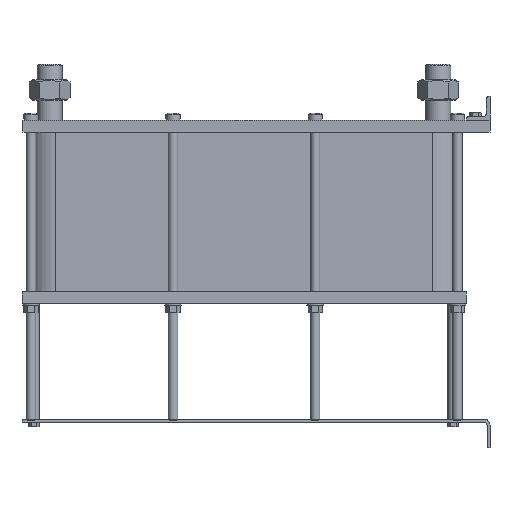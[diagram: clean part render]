
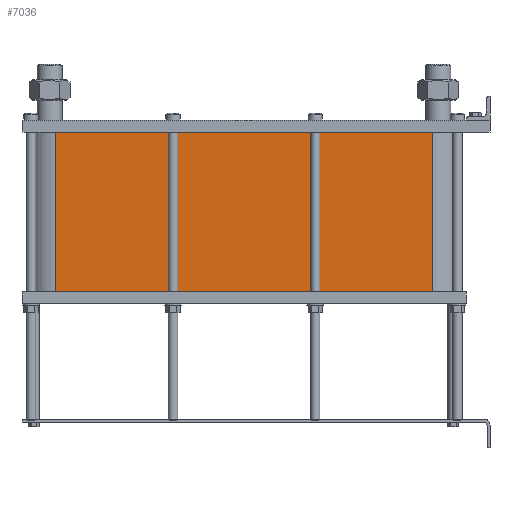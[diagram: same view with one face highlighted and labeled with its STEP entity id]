
A CAD part, left-side view. The second image highlights one B-rep face of the part: STEP entity #7036.
In plain terms, the highlighted planar face has unit normal (-1, 0, 0).
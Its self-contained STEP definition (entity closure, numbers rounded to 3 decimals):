
#999=LINE('',#15640,#1553);
#1031=LINE('',#15723,#1585);
#1032=LINE('',#15726,#1586);
#1033=LINE('',#15727,#1587);
#1553=VECTOR('',#9658,10.);
#1585=VECTOR('',#9736,10.);
#1586=VECTOR('',#9741,10.);
#1587=VECTOR('',#9742,10.);
#2117=FACE_OUTER_BOUND('',#2671,.T.);
#2671=EDGE_LOOP('',(#6246,#6247,#6248,#6249));
#3527=VERTEX_POINT('',#15634);
#3529=VERTEX_POINT('',#15638);
#3556=VERTEX_POINT('',#15720);
#3557=VERTEX_POINT('',#15722);
#4425=EDGE_CURVE('',#3529,#3527,#999,.T.);
#4466=EDGE_CURVE('',#3557,#3556,#1031,.T.);
#4468=EDGE_CURVE('',#3527,#3556,#1032,.T.);
#4469=EDGE_CURVE('',#3557,#3529,#1033,.T.);
#6246=ORIENTED_EDGE('',*,*,#4468,.F.);
#6247=ORIENTED_EDGE('',*,*,#4425,.F.);
#6248=ORIENTED_EDGE('',*,*,#4469,.F.);
#6249=ORIENTED_EDGE('',*,*,#4466,.T.);
#6608=PLANE('',#7812);
#7036=ADVANCED_FACE('',(#2117),#6608,.T.);
#7812=AXIS2_PLACEMENT_3D('',#15725,#9739,#9740);
#9658=DIRECTION('',(0.,0.,-1.));
#9736=DIRECTION('',(0.,0.,-1.));
#9739=DIRECTION('center_axis',(-1.,0.,0.));
#9740=DIRECTION('ref_axis',(0.,1.,0.));
#9741=DIRECTION('',(0.,1.,0.));
#9742=DIRECTION('',(0.,-1.,0.));
#15634=CARTESIAN_POINT('',(-72.,97.5,-269.7));
#15638=CARTESIAN_POINT('',(-72.,97.5,0.));
#15640=CARTESIAN_POINT('',(-72.,97.5,0.));
#15720=CARTESIAN_POINT('',(-72.,733.5,-269.7));
#15722=CARTESIAN_POINT('',(-72.,733.5,0.));
#15723=CARTESIAN_POINT('',(-72.,733.5,0.));
#15725=CARTESIAN_POINT('Origin',(-72.,97.5,0.));
#15726=CARTESIAN_POINT('',(-72.,256.5,-269.7));
#15727=CARTESIAN_POINT('',(-72.,733.5,0.));
